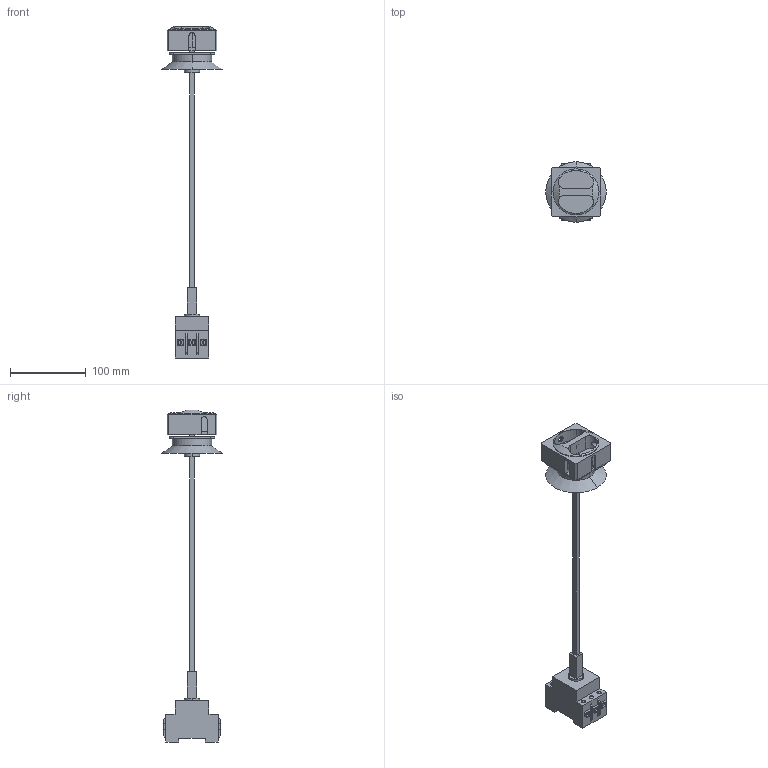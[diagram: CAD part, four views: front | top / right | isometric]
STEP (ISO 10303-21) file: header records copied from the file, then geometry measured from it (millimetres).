
FILE_DESCRIPTION(('STEP AP214'),'1');
FILE_NAME('C:/TPO v2/SharedFS/Outgoing/inter_sect_022143_0_ew.stp','2016-08-16T07:24:30',('TraceParts'),('TraceParts S.A.'),'Spatial InterOp 3D',' ',' ');
FILE_SCHEMA(('automotive_design'));
Length unit declared in the file: millimetre
Products named in the file (4): inter_sect_022143_0_ew_1; inter_sect_022143_0_ew_2; inter_sect_022143_0_ew_3; inter_sect_022143_0_ew_4
Bounding box: 80 x 80 x 439.5 mm (x, y, z)
Volume: 284762.6 mm3; surface area: 73954.9 mm2
Topology: 4 solids, 4 shells, 260 faces, 635 edges, 419 vertices
Faces by surface type: plane 191, cylinder 65, cone 4
Entity records: 8376 total; most frequent: CARTESIAN_POINT 1971, ORIENTED_EDGE 1270, DIRECTION 1247, EDGE_CURVE 635, LINE 493, VECTOR 493, VERTEX_POINT 419, AXIS2_PLACEMENT_3D 377
